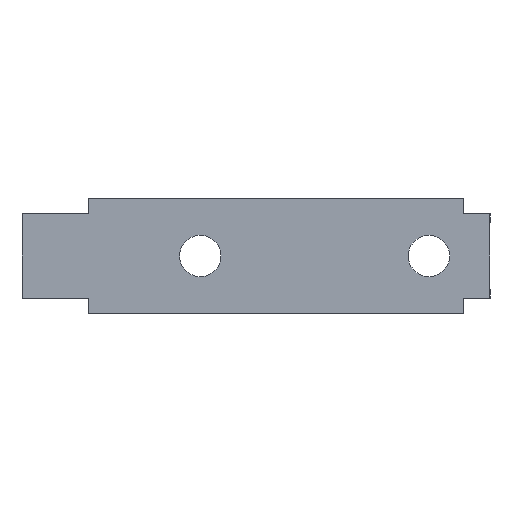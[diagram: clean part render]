
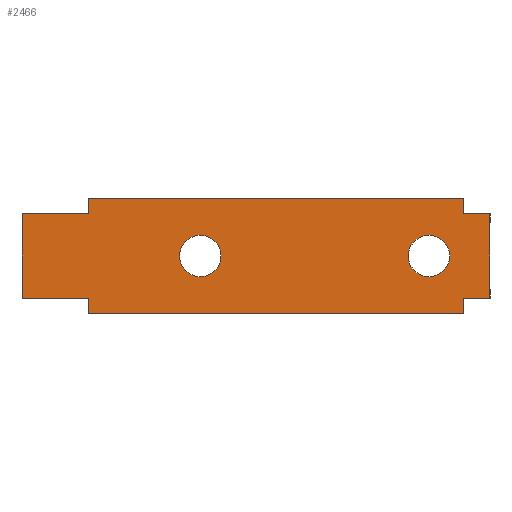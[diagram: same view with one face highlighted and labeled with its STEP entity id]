
A CAD part, left-side view. The second image highlights one B-rep face of the part: STEP entity #2466.
In plain terms, the highlighted planar face has unit normal (-1, 0, 0).
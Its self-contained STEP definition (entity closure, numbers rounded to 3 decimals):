
#19 = FACE_OUTER_BOUND ( 'NONE', #415, .T. ) ;
#20 = FACE_BOUND ( 'NONE', #419, .T. ) ;
#23 = FACE_BOUND ( 'NONE', #418, .T. ) ;
#126 = ORIENTED_EDGE ( 'NONE', *, *, #1325, .F. ) ;
#127 = ORIENTED_EDGE ( 'NONE', *, *, #1329, .F. ) ;
#128 = ORIENTED_EDGE ( 'NONE', *, *, #1219, .F. ) ;
#129 = ORIENTED_EDGE ( 'NONE', *, *, #1245, .F. ) ;
#130 = ORIENTED_EDGE ( 'NONE', *, *, #1292, .T. ) ;
#131 = ORIENTED_EDGE ( 'NONE', *, *, #1059, .F. ) ;
#132 = ORIENTED_EDGE ( 'NONE', *, *, #1072, .F. ) ;
#133 = ORIENTED_EDGE ( 'NONE', *, *, #1106, .F. ) ;
#134 = ORIENTED_EDGE ( 'NONE', *, *, #1311, .F. ) ;
#135 = ORIENTED_EDGE ( 'NONE', *, *, #1117, .F. ) ;
#136 = ORIENTED_EDGE ( 'NONE', *, *, #1312, .F. ) ;
#137 = ORIENTED_EDGE ( 'NONE', *, *, #1178, .T. ) ;
#138 = ORIENTED_EDGE ( 'NONE', *, *, #1194, .F. ) ;
#139 = ORIENTED_EDGE ( 'NONE', *, *, #1139, .F. ) ;
#140 = ORIENTED_EDGE ( 'NONE', *, *, #1132, .F. ) ;
#141 = ORIENTED_EDGE ( 'NONE', *, *, #1306, .T. ) ;
#415 = EDGE_LOOP ( 'NONE', ( #130, #131, #132, #133, #134, #135, #136, #137, #138, #139, #140, #141 ) ) ;
#418 = EDGE_LOOP ( 'NONE', ( #126, #127 ) ) ;
#419 = EDGE_LOOP ( 'NONE', ( #128, #129 ) ) ;
#646 = CIRCLE ( 'NONE', #1192, 2.9 ) ;
#651 = CIRCLE ( 'NONE', #1149, 2.9 ) ;
#664 = VECTOR ( 'NONE', #2096, 1000. ) ;
#665 = LINE ( 'NONE', #2097, #664 ) ;
#666 = VECTOR ( 'NONE', #2098, 1000. ) ;
#667 = LINE ( 'NONE', #2099, #666 ) ;
#675 = VECTOR ( 'NONE', #2107, 1000. ) ;
#676 = LINE ( 'NONE', #2108, #675 ) ;
#702 = VECTOR ( 'NONE', #2136, 1000. ) ;
#703 = LINE ( 'NONE', #2138, #702 ) ;
#895 = CARTESIAN_POINT ( 'NONE',  ( 0.65, 47.6, -8. ) ) ;
#896 = DIRECTION ( 'NONE',  ( 0., -1., 0. ) ) ;
#915 = DIRECTION ( 'NONE',  ( 1., 0., 0. ) ) ;
#991 = PLANE ( 'NONE',  #1158 ) ;
#1059 = EDGE_CURVE ( 'NONE', #1459, #1460, #1843, .T. ) ;
#1072 = EDGE_CURVE ( 'NONE', #1486, #1459, #1808, .T. ) ;
#1106 = EDGE_CURVE ( 'NONE', #1421, #1486, #1760, .T. ) ;
#1117 = EDGE_CURVE ( 'NONE', #1452, #1438, #1745, .T. ) ;
#1132 = EDGE_CURVE ( 'NONE', #1467, #1488, #1719, .T. ) ;
#1139 = EDGE_CURVE ( 'NONE', #1488, #1507, #1727, .T. ) ;
#1149 = AXIS2_PLACEMENT_3D ( 'NONE', #2089, #2082, #2081 ) ;
#1158 = AXIS2_PLACEMENT_3D ( 'NONE', #895, #915, #896 ) ;
#1178 = EDGE_CURVE ( 'NONE', #1463, #1502, #1662, .T. ) ;
#1192 = AXIS2_PLACEMENT_3D ( 'NONE', #2093, #2074, #2073 ) ;
#1194 = EDGE_CURVE ( 'NONE', #1507, #1502, #1652, .T. ) ;
#1219 = EDGE_CURVE ( 'NONE', #1418, #1503, #1584, .T. ) ;
#1245 = EDGE_CURVE ( 'NONE', #1503, #1418, #1556, .T. ) ;
#1269 = AXIS2_PLACEMENT_3D ( 'NONE', #2215, #2202, #2200 ) ;
#1292 = EDGE_CURVE ( 'NONE', #1469, #1460, #703, .T. ) ;
#1306 = EDGE_CURVE ( 'NONE', #1467, #1469, #676, .T. ) ;
#1311 = EDGE_CURVE ( 'NONE', #1438, #1421, #667, .T. ) ;
#1312 = EDGE_CURVE ( 'NONE', #1463, #1452, #665, .T. ) ;
#1317 = AXIS2_PLACEMENT_3D ( 'NONE', #2263, #2261, #2260 ) ;
#1325 = EDGE_CURVE ( 'NONE', #1482, #1481, #651, .T. ) ;
#1329 = EDGE_CURVE ( 'NONE', #1481, #1482, #646, .T. ) ;
#1370 = DIRECTION ( 'NONE',  ( 0., 0., 1. ) ) ;
#1375 = CARTESIAN_POINT ( 'NONE',  ( 0.65, 47.6, -8. ) ) ;
#1418 = VERTEX_POINT ( 'NONE', #2006 ) ;
#1421 = VERTEX_POINT ( 'NONE', #2002 ) ;
#1438 = VERTEX_POINT ( 'NONE', #1982 ) ;
#1452 = VERTEX_POINT ( 'NONE', #1965 ) ;
#1459 = VERTEX_POINT ( 'NONE', #1957 ) ;
#1460 = VERTEX_POINT ( 'NONE', #1956 ) ;
#1463 = VERTEX_POINT ( 'NONE', #1952 ) ;
#1467 = VERTEX_POINT ( 'NONE', #1947 ) ;
#1469 = VERTEX_POINT ( 'NONE', #1944 ) ;
#1481 = VERTEX_POINT ( 'NONE', #1930 ) ;
#1482 = VERTEX_POINT ( 'NONE', #1929 ) ;
#1486 = VERTEX_POINT ( 'NONE', #1924 ) ;
#1488 = VERTEX_POINT ( 'NONE', #1921 ) ;
#1502 = VERTEX_POINT ( 'NONE', #1906 ) ;
#1503 = VERTEX_POINT ( 'NONE', #1904 ) ;
#1507 = VERTEX_POINT ( 'NONE', #1900 ) ;
#1556 = CIRCLE ( 'NONE', #1269, 2.9 ) ;
#1584 = CIRCLE ( 'NONE', #1317, 2.9 ) ;
#1633 = VECTOR ( 'NONE', #2306, 1000. ) ;
#1652 = LINE ( 'NONE', #2312, #1633 ) ;
#1655 = VECTOR ( 'NONE', #2340, 1000. ) ;
#1662 = LINE ( 'NONE', #2344, #1655 ) ;
#1707 = VECTOR ( 'NONE', #2408, 1000. ) ;
#1718 = VECTOR ( 'NONE', #1862, 1000. ) ;
#1719 = LINE ( 'NONE', #1867, #1718 ) ;
#1727 = LINE ( 'NONE', #2413, #1707 ) ;
#1740 = VECTOR ( 'NONE', #1990, 1000. ) ;
#1745 = LINE ( 'NONE', #2022, #1740 ) ;
#1753 = VECTOR ( 'NONE', #2104, 1000. ) ;
#1760 = LINE ( 'NONE', #2137, #1753 ) ;
#1807 = VECTOR ( 'NONE', #2336, 1000. ) ;
#1808 = LINE ( 'NONE', #2337, #1807 ) ;
#1832 = VECTOR ( 'NONE', #1370, 1000. ) ;
#1843 = LINE ( 'NONE', #1375, #1832 ) ;
#1862 = DIRECTION ( 'NONE',  ( 0., -1., 0. ) ) ;
#1867 = CARTESIAN_POINT ( 'NONE',  ( 0.65, -8.55, 5.9 ) ) ;
#1900 = CARTESIAN_POINT ( 'NONE',  ( 0.65, -8.55, -5.9 ) ) ;
#1904 = CARTESIAN_POINT ( 'NONE',  ( 0.65, -2.9, 0. ) ) ;
#1906 = CARTESIAN_POINT ( 'NONE',  ( 0.65, -4.9, -5.9 ) ) ;
#1921 = CARTESIAN_POINT ( 'NONE',  ( 0.65, -8.55, 5.9 ) ) ;
#1924 = CARTESIAN_POINT ( 'NONE',  ( 0.65, 56.95, 5.9 ) ) ;
#1929 = CARTESIAN_POINT ( 'NONE',  ( 0.65, 34.9, 0. ) ) ;
#1930 = CARTESIAN_POINT ( 'NONE',  ( 0.65, 29.1, 0. ) ) ;
#1944 = CARTESIAN_POINT ( 'NONE',  ( 0.65, -4.9, 8. ) ) ;
#1947 = CARTESIAN_POINT ( 'NONE',  ( 0.65, -4.9, 5.9 ) ) ;
#1952 = CARTESIAN_POINT ( 'NONE',  ( 0.65, -4.9, -8. ) ) ;
#1956 = CARTESIAN_POINT ( 'NONE',  ( 0.65, 47.6, 8. ) ) ;
#1957 = CARTESIAN_POINT ( 'NONE',  ( 0.65, 47.6, 5.9 ) ) ;
#1965 = CARTESIAN_POINT ( 'NONE',  ( 0.65, 47.6, -8. ) ) ;
#1982 = CARTESIAN_POINT ( 'NONE',  ( 0.65, 47.6, -5.9 ) ) ;
#1990 = DIRECTION ( 'NONE',  ( 0., 0., 1. ) ) ;
#2002 = CARTESIAN_POINT ( 'NONE',  ( 0.65, 56.95, -5.9 ) ) ;
#2006 = CARTESIAN_POINT ( 'NONE',  ( 0.65, 2.9, 0. ) ) ;
#2022 = CARTESIAN_POINT ( 'NONE',  ( 0.65, 47.6, -8. ) ) ;
#2073 = DIRECTION ( 'NONE',  ( 0., 1., 0. ) ) ;
#2074 = DIRECTION ( 'NONE',  ( -1., 0., 0. ) ) ;
#2081 = DIRECTION ( 'NONE',  ( 0., 1., 0. ) ) ;
#2082 = DIRECTION ( 'NONE',  ( -1., 0., 0. ) ) ;
#2089 = CARTESIAN_POINT ( 'NONE',  ( 0.65, 32., 0. ) ) ;
#2093 = CARTESIAN_POINT ( 'NONE',  ( 0.65, 32., 0. ) ) ;
#2096 = DIRECTION ( 'NONE',  ( 0., 1., 0. ) ) ;
#2097 = CARTESIAN_POINT ( 'NONE',  ( 0.65, 47.6, -8. ) ) ;
#2098 = DIRECTION ( 'NONE',  ( 0., 1., 0. ) ) ;
#2099 = CARTESIAN_POINT ( 'NONE',  ( 0.65, 47.6, -5.9 ) ) ;
#2104 = DIRECTION ( 'NONE',  ( 0., 0., 1. ) ) ;
#2107 = DIRECTION ( 'NONE',  ( 0., 0., 1. ) ) ;
#2108 = CARTESIAN_POINT ( 'NONE',  ( 0.65, -4.9, -8. ) ) ;
#2136 = DIRECTION ( 'NONE',  ( 0., 1., 0. ) ) ;
#2137 = CARTESIAN_POINT ( 'NONE',  ( 0.65, 56.95, 5.9 ) ) ;
#2138 = CARTESIAN_POINT ( 'NONE',  ( 0.65, 47.6, 8. ) ) ;
#2200 = DIRECTION ( 'NONE',  ( 0., 1., 0. ) ) ;
#2202 = DIRECTION ( 'NONE',  ( -1., 0., 0. ) ) ;
#2215 = CARTESIAN_POINT ( 'NONE',  ( 0.65, 0., 0. ) ) ;
#2260 = DIRECTION ( 'NONE',  ( 0., 1., 0. ) ) ;
#2261 = DIRECTION ( 'NONE',  ( -1., 0., 0. ) ) ;
#2263 = CARTESIAN_POINT ( 'NONE',  ( 0.65, 0., 0. ) ) ;
#2306 = DIRECTION ( 'NONE',  ( 0., 1., 0. ) ) ;
#2312 = CARTESIAN_POINT ( 'NONE',  ( 0.65, -8.55, -5.9 ) ) ;
#2336 = DIRECTION ( 'NONE',  ( 0., -1., 0. ) ) ;
#2337 = CARTESIAN_POINT ( 'NONE',  ( 0.65, 47.6, 5.9 ) ) ;
#2340 = DIRECTION ( 'NONE',  ( 0., 0., 1. ) ) ;
#2344 = CARTESIAN_POINT ( 'NONE',  ( 0.65, -4.9, -8. ) ) ;
#2408 = DIRECTION ( 'NONE',  ( 0., 0., -1. ) ) ;
#2413 = CARTESIAN_POINT ( 'NONE',  ( 0.65, -8.55, 5.9 ) ) ;
#2466 = ADVANCED_FACE ( 'NONE', ( #23, #20, #19 ), #991, .F. ) ;
